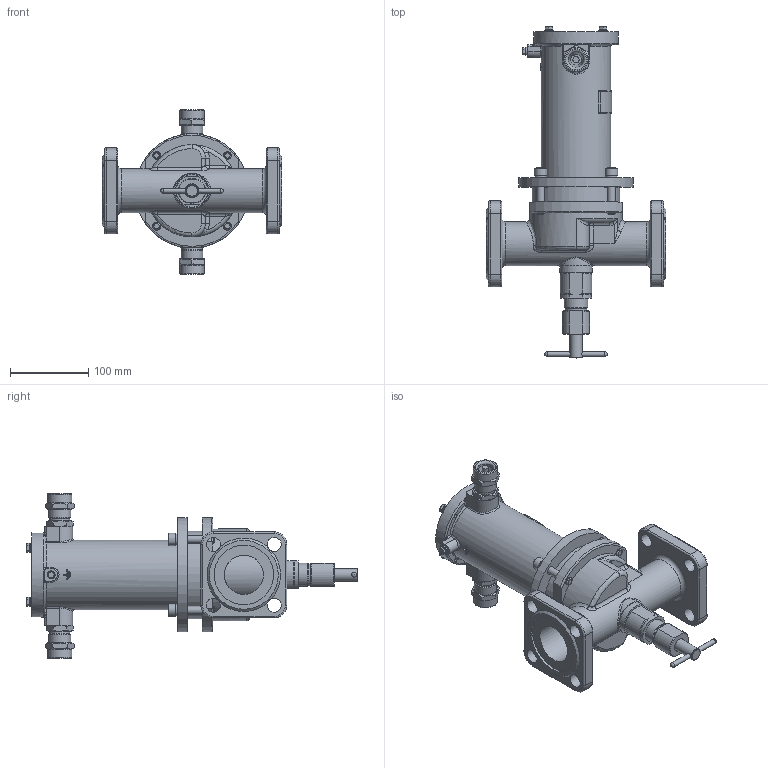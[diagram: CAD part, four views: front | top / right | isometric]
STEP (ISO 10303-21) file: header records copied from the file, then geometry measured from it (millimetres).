
FILE_DESCRIPTION(('STEP AP203'), '1');
FILE_NAME('ÑÅÍÑ DN50PN25-Â-ÍÎ.stp', '2018-09-19T08:52:03', ('Îðëîâ Å.Â.'), ('ÎÎÎ ÍÏÏ Ñåíñîð'), 'ASCON STEP Converter 1.3', 'Kompas 3D', '');
FILE_SCHEMA(('CONFIG_CONTROL_DESIGN','SUPPORT_RESOURCE_SCHEMA'));
Length unit declared in the file: millimetre
Products named in the file (1): 83
Bounding box: 230 x 424.7 x 211 mm (x, y, z)
Volume: 1534537.2 mm3; surface area: 408230 mm2
Topology: 2 solids, 19 shells, 1977 faces, 5248 edges, 3388 vertices
Faces by surface type: cylinder 1009, plane 725, cone 126, torus 50, bspline 47, extrusion 16, sphere 4
Full cylindrical faces by diameter (mm): 3.5 x2, 4.134 x1, 4.917 x4, 5 x1, 6 x10, 6.5 x4, 8 x8, 10 x9, 11 x4, 12 x4, 13 x2, 16 x6, 17 x2, 18 x9, 20 x4, 20.9 x1, 22 x2, 22.376 x2, 23 x1, 23.5 x2, 24 x2, 24.5 x2, 26 x4, 26.376 x2, 27.8 x1, 28 x3, 28.5 x2, 30 x2, 31 x2, 42 x1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
Entity records: 77033 total; most frequent: CARTESIAN_POINT 26814, DIRECTION 10899, ORIENTED_EDGE 10438, EDGE_CURVE 5219, AXIS2_PLACEMENT_3D 4187, VERTEX_POINT 3388, VECTOR 2525, LINE 2509
